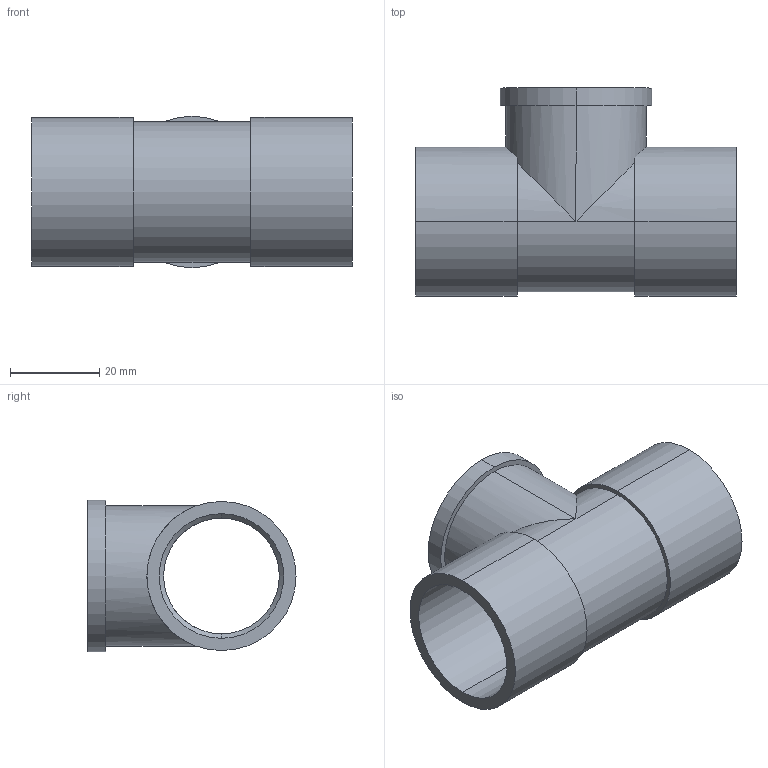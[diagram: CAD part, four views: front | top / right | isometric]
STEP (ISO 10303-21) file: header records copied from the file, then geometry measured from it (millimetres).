
FILE_DESCRIPTION (( 'STEP AP203' ), '1' );
FILE_NAME ('28x34.STEP', '2014-08-27T00:36:15', ( 'Administrators' ), ( 'JUJUMAO' ), 'SwSTEP 2.0', 'SolidWorks 2008', '' );
FILE_SCHEMA (( 'CONFIG_CONTROL_DESIGN' ));
Length unit declared in the file: millimetre
Products named in the file (1): 28x34
Bounding box: 72 x 46.75 x 34 mm (x, y, z)
Volume: 22727.8 mm3; surface area: 17764.9 mm2
Topology: 1 solids, 1 shells, 59 faces, 152 edges, 96 vertices
Faces by surface type: cylinder 40, plane 10, cone 7, bspline 2
Entity records: 3030 total; most frequent: CARTESIAN_POINT 1622, ORIENTED_EDGE 304, DIRECTION 261, EDGE_CURVE 152, AXIS2_PLACEMENT_3D 103, VERTEX_POINT 96, EDGE_LOOP 64, FACE_OUTER_BOUND 59
